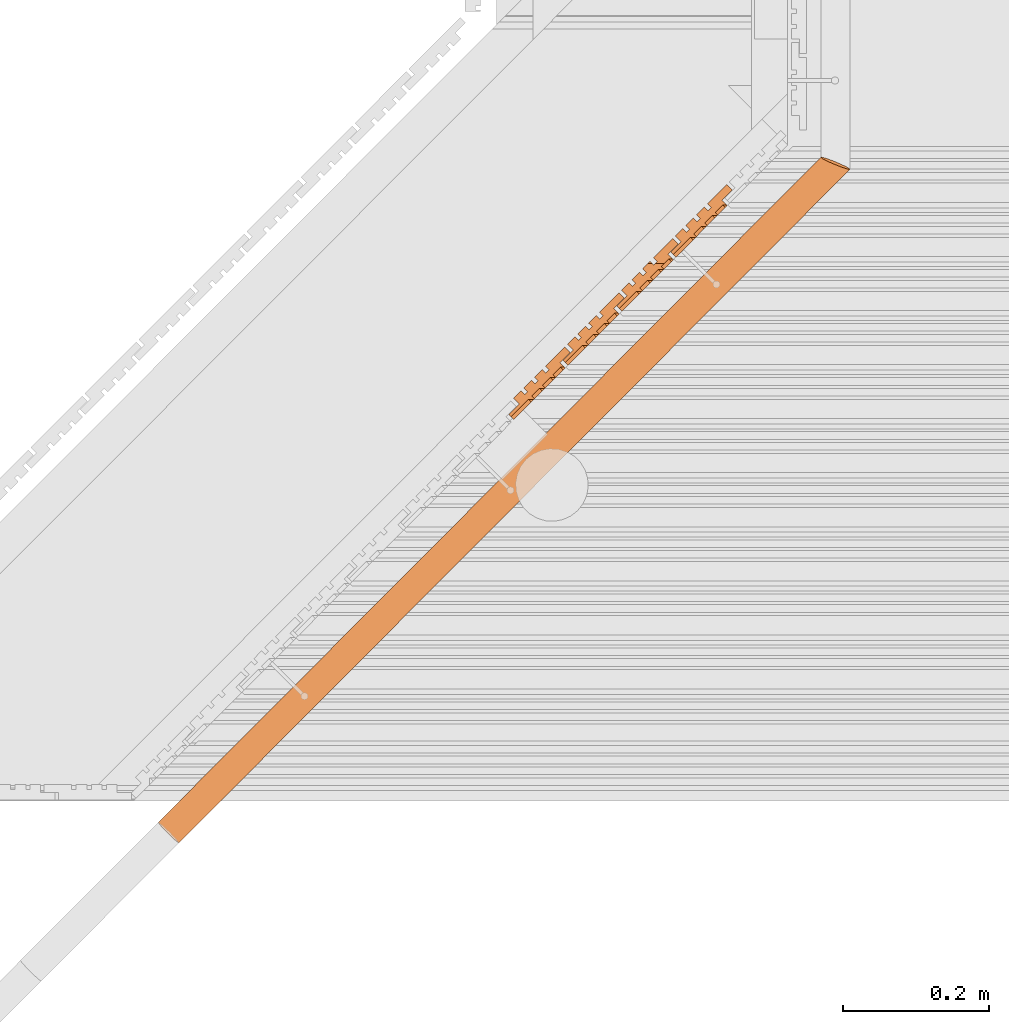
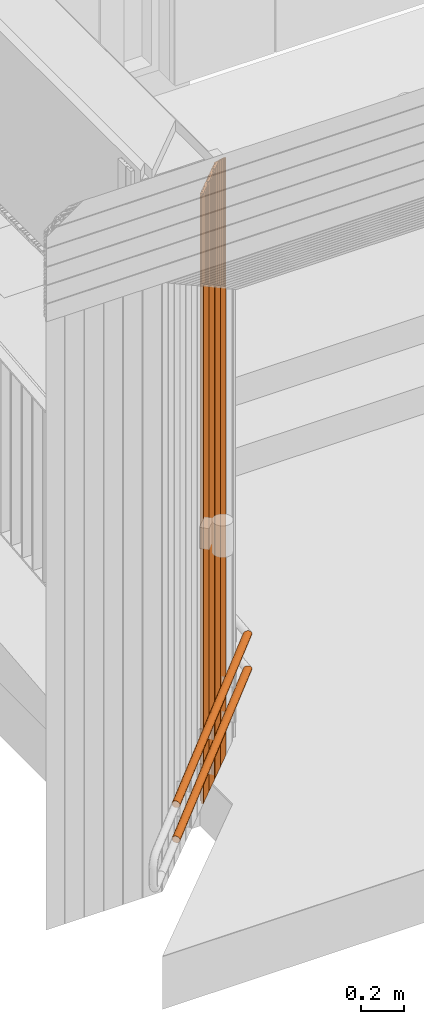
# One storey, part 384 of 418: 6 proxies, 1 element without a shape of its own.
"""IFC2X3 building model written with IfcOpenShell, lengths in millimetres."""

import ifcopenshell
import ifcopenshell.guid

model = None  # the IFC model being written
_history = None  # IfcOwnerHistory: only IFC2X3 demands one
_inside = {}  # id of a spatial element -> (the spatial element, [elements in it])
_under = {}  # id of a project, library or spatial element -> (it, [spatial elements below it])
_declared = {}  # id of a project -> (the project, [libraries it declares])
_typed = {}  # id of a type object -> (the type object, [elements of that type])
_made_of = {}  # id of a material, layer set ... -> (it, [elements and type objects made of it])


def new_model(schema):
    """Start an empty IFC model of exactly this schema.

    Asked for "IFC4X3", IfcOpenShell would pick the latest addendum, in which some entities
    have other attributes; the version numbers below select the first issue.
    IFC2X3 requires an IfcOwnerHistory on every rooted entity: one is made here for all.
    """
    global model, _history
    if schema == "IFC4X3":
        model = ifcopenshell.file(schema_version=(4, 3, 0, 0))
    else:
        model = ifcopenshell.file(schema=schema)
    _inside.clear()
    _under.clear()
    _declared.clear()
    _typed.clear()
    _made_of.clear()
    _history = None
    if model.schema == "IFC2X3":
        org = make("IfcOrganization", Name="unknown")
        user = make(
            "IfcPersonAndOrganization",
            ThePerson=make("IfcPerson", FamilyName="unknown"),
            TheOrganization=org,
        )
        app = make(
            "IfcApplication",
            ApplicationDeveloper=org,
            Version="unknown",
            ApplicationFullName="unknown",
            ApplicationIdentifier="unknown",
        )
        _history = make(
            "IfcOwnerHistory",
            OwningUser=user,
            OwningApplication=app,
            ChangeAction="ADDED",
            CreationDate=0,
        )
    return model


def make(cls, **values):
    """One entity of the class cls with the attributes given. An attribute that is None is left unset."""
    return model.create_entity(
        cls, **{name: value for name, value in values.items() if value is not None}
    )


def entity(cls, *values):
    """Any entity or typed value of the class cls, its attributes in the order of the schema. None: left unset."""
    e = model.create_entity(cls)
    for i, value in enumerate(values):
        if value is not None:
            e[i] = value
    return e


def rooted(cls, **values):
    """An entity with a GlobalId (a new one), such as an element, a storey or a relation."""
    return make(cls, GlobalId=ifcopenshell.guid.new(), OwnerHistory=_history, **values)


def si_unit(unit_type, name, prefix=None):
    """IfcSIUnit, for example si_unit("LENGTHUNIT", "METRE", prefix="MILLI")."""
    return make("IfcSIUnit", UnitType=unit_type, Prefix=prefix, Name=name)


def converted_unit(unit_type, name, factor, base, dimensions=None, offset=None):
    """IfcConversionBasedUnit, such as the inch: factor (a typed value) times the base unit."""
    return make(
        "IfcConversionBasedUnit"
        if offset is None
        else "IfcConversionBasedUnitWithOffset",
        ConversionOffset=offset,
        Dimensions=None
        if dimensions is None
        else entity("IfcDimensionalExponents", *dimensions),
        UnitType=unit_type,
        Name=name,
        ConversionFactor=make(
            "IfcMeasureWithUnit", ValueComponent=factor, UnitComponent=base
        ),
    )


def derived_unit(unit_type, elements):
    """IfcDerivedUnit: a product of units, each with its exponent."""
    return make(
        "IfcDerivedUnit",
        Elements=[
            make("IfcDerivedUnitElement", Unit=unit, Exponent=power)
            for unit, power in elements
        ],
        UnitType=unit_type,
    )


def money_unit(currency):
    """IfcMonetaryUnit."""
    return make("IfcMonetaryUnit", Currency=currency)


def assignment(units):
    """IfcUnitAssignment: the units of a project."""
    return None if units is None else make("IfcUnitAssignment", Units=units)


def point(xyz):
    """IfcCartesianPoint."""
    return None if xyz is None else make("IfcCartesianPoint", Coordinates=xyz)


def direction(xyz):
    """IfcDirection."""
    return None if xyz is None else make("IfcDirection", DirectionRatios=xyz)


def frame(location, z_axis=None, x_axis=None):
    """IfcAxis2Placement3D, a coordinate frame: its origin and axes. An axis left out is left unset."""
    return make(
        "IfcAxis2Placement3D",
        Location=point(location),
        Axis=direction(z_axis),
        RefDirection=direction(x_axis),
    )


def origin_with_axes():
    """The frame at (0, 0, 0) with the z axis (0, 0, 1) and the x axis (1, 0, 0) written out."""
    return frame((0.0, 0.0, 0.0), z_axis=(0.0, 0.0, 1.0), x_axis=(1.0, 0.0, 0.0))


def place(relative_to, where):
    """IfcLocalPlacement: puts the frame where relative to a parent placement (None: the world)."""
    return make(
        "IfcLocalPlacement", PlacementRelTo=relative_to, RelativePlacement=where
    )


def context(
    kind, dimensions, precision=None, world=None, true_north=None, identifier=None
):
    """IfcGeometricRepresentationContext, for example the 3D "Model" context."""
    return make(
        "IfcGeometricRepresentationContext",
        ContextIdentifier=identifier,
        ContextType=kind,
        CoordinateSpaceDimension=dimensions,
        Precision=precision,
        WorldCoordinateSystem=world,
        TrueNorth=true_north,
    )


def subcontext(parent, identifier, kind, view, scale=None):
    """IfcGeometricRepresentationSubContext, for example "Body" below "Model"."""
    return make(
        "IfcGeometricRepresentationSubContext",
        ContextIdentifier=identifier,
        ContextType=kind,
        ParentContext=parent,
        TargetScale=scale,
        TargetView=view,
    )


def project(units=None, contexts=None):
    """IfcProject with its units and contexts."""
    return rooted(
        "IfcProject",
        Name="project",
        RepresentationContexts=contexts,
        UnitsInContext=assignment(units),
    )


def spatial(cls, under=None, at=None, **own):
    """A site, building, storey or space (cls), placed at a placement, below another one or the project."""
    s = rooted(cls, ObjectPlacement=at, **own)
    if under is not None:
        _under.setdefault(under.id(), (under, []))[1].append(s)
    return s


def polyline(points):
    """IfcPolyline through the points."""
    return make("IfcPolyline", Points=[point(p) for p in points])


def outline(outer, holes=None, kind="AREA"):
    """IfcArbitraryClosedProfileDef: a profile drawn as a closed curve; with holes, ...WithVoids."""
    if holes is None:
        return make("IfcArbitraryClosedProfileDef", ProfileType=kind, OuterCurve=outer)
    return make(
        "IfcArbitraryProfileDefWithVoids",
        ProfileType=kind,
        OuterCurve=outer,
        InnerCurves=holes,
    )


def extrude(swept, where, along, depth):
    """IfcExtrudedAreaSolid: the profile swept, set in the frame where, extruded along a direction by depth."""
    return make(
        "IfcExtrudedAreaSolid",
        SweptArea=swept,
        Position=where,
        ExtrudedDirection=direction(along),
        Depth=depth,
    )


def boolean(op, a, b):
    """IfcBooleanResult of two solids."""
    return make("IfcBooleanResult", Operator=op, FirstOperand=a, SecondOperand=b)


def faces_of(points, faces, orient=None, outer=None):
    """IfcFace entities. A face is a list of loops; a loop is a list of indices into points, from 0.

    orient and outer hold one flag for each loop. By default every Orientation is true, the
    first loop of a face is its IfcFaceOuterBound and the others are IfcFaceBound.
    """
    made = []
    for i, loops in enumerate(faces):
        bounds = []
        for j, loop in enumerate(loops):
            is_outer = j == 0 if outer is None else outer[i][j]
            bounds.append(
                make(
                    "IfcFaceOuterBound" if is_outer else "IfcFaceBound",
                    Bound=make("IfcPolyLoop", Polygon=[points[k] for k in loop]),
                    Orientation=True if orient is None else orient[i][j],
                )
            )
        made.append(make("IfcFace", Bounds=bounds))
    return made


def faceted_brep(points, faces, orient=None, outer=None, voids=None):
    """IfcFacetedBrep: a solid bounded by flat faces; with voids (closed shells), ...WithVoids."""
    shared = [point(p) for p in points]
    hull = make("IfcClosedShell", CfsFaces=faces_of(shared, faces, orient, outer))
    if voids is None:
        return make("IfcFacetedBrep", Outer=hull)
    return make(
        "IfcFacetedBrepWithVoids",
        Outer=hull,
        Voids=[
            make(cls, CfsFaces=faces_of(shared, fs, o, b)) for cls, fs, o, b in voids
        ],
    )


def shape(context_of_items, identifier, shape_type, items):
    """IfcShapeRepresentation: the items that make up one representation, for example the "Body"."""
    return make(
        "IfcShapeRepresentation",
        ContextOfItems=context_of_items,
        RepresentationIdentifier=identifier,
        RepresentationType=shape_type,
        Items=items,
    )


def material(Name=None, Category=None):
    """IfcMaterial."""
    return make("IfcMaterial", Name=Name, Category=Category)


def made_of(thing, what):
    """Note that an element or type object is made of a material, layer set ...; save() writes the relation."""
    if what is not None:
        _made_of.setdefault(what.id(), (what, []))[1].append(thing)
    return thing


def type_object(cls, material=None, **own):
    """A type object (cls), such as IfcWallType, which elements share."""
    return made_of(rooted(cls, **own), material)


def element(
    cls,
    number,
    at=None,
    inside=None,
    cuts=None,
    type_object=None,
    material=None,
    context=None,
    identifier="Body",
    shape_type=None,
    held_by="IfcProductDefinitionShape",
    body=None,
    shapes=None,
    **own,
):
    """One element of the class cls, such as IfcWall. Its Tag is "e" and its number.

    at: its placement. inside: the storey or other place that contains it. cuts: it is an
    opening in that element (IfcRelVoidsElement). A single representation is given by context,
    identifier, shape_type and body (its items); several are given by shapes. held_by: the class
    of the entity that holds the representations. save() writes the other relations.
    """
    e = rooted(cls, Tag="e%d" % number, ObjectPlacement=at, **own)
    if body is not None:
        shapes = [shape(context, identifier, shape_type, body)]
    if shapes is not None:
        e.Representation = make(held_by, Representations=shapes)
    if inside is not None:
        _inside.setdefault(inside.id(), (inside, []))[1].append(e)
    if cuts is not None:
        rooted(
            "IfcRelVoidsElement", RelatingBuildingElement=cuts, RelatedOpeningElement=e
        )
    if type_object is not None:
        _typed.setdefault(type_object.id(), (type_object, []))[1].append(e)
    return made_of(e, material)


def aggregate(whole, parts):
    """IfcRelAggregates: a whole, such as a stair, and the parts it consists of."""
    return rooted("IfcRelAggregates", RelatingObject=whole, RelatedObjects=parts)


def save(model, path):
    """Write the relations noted so far, then the file.

    IfcRelAggregates (storeys below a building ...), IfcRelContainedInSpatialStructure (elements
    in a storey), IfcRelDefinesByType, IfcRelAssociatesMaterial and IfcRelDeclares: one each for
    every whole, place, type object, material and project.
    """
    for whole, parts in _under.values():
        aggregate(whole, parts)
    for where, things in _inside.values():
        rooted(
            "IfcRelContainedInSpatialStructure",
            RelatedElements=things,
            RelatingStructure=where,
        )
    for kind, things in _typed.values():
        rooted("IfcRelDefinesByType", RelatedObjects=things, RelatingType=kind)
    for what, things in _made_of.values():
        rooted("IfcRelAssociatesMaterial", RelatedObjects=things, RelatingMaterial=what)
    for by, libraries in _declared.values():
        rooted("IfcRelDeclares", RelatingContext=by, RelatedDefinitions=libraries)
    model.write(path)


model = new_model("IFC2X3")

# Units and contexts
model_context = context("Model", 3, precision=0.01, world=origin_with_axes(), true_north=direction((0.0, 1.0)))
body_context = subcontext(model_context, "Body", "Model", "MODEL_VIEW")
ifc_project = project(units=[si_unit("LENGTHUNIT", "METRE", prefix="MILLI"), si_unit("AREAUNIT", "SQUARE_METRE"), si_unit("VOLUMEUNIT", "CUBIC_METRE"), converted_unit("PLANEANGLEUNIT", "DEGREE", entity("IfcPlaneAngleMeasure", 0.0174532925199), si_unit("PLANEANGLEUNIT", "RADIAN"), dimensions=[0, 0, 0, 0, 0, 0, 0]), si_unit("SOLIDANGLEUNIT", "STERADIAN"), money_unit("EUR"), converted_unit("TIMEUNIT", "Year", entity("IfcTimeMeasure", 31556926.0), si_unit("TIMEUNIT", "SECOND"), dimensions=[0, 0, 1, 0, 0, 0, 0]), si_unit("MASSUNIT", "GRAM", prefix="KILO"), si_unit("THERMODYNAMICTEMPERATUREUNIT", "DEGREE_CELSIUS"), si_unit("LUMINOUSINTENSITYUNIT", "LUMEN"), si_unit("ENERGYUNIT", "JOULE", prefix="MEGA"), derived_unit("THERMALCONDUCTANCEUNIT", [(si_unit("POWERUNIT", "WATT"), 1), (si_unit("LENGTHUNIT", "METRE"), -1), (si_unit("THERMODYNAMICTEMPERATUREUNIT", "KELVIN"), -1)]), derived_unit("SPECIFICHEATCAPACITYUNIT", [(si_unit("ENERGYUNIT", "JOULE"), 1), (si_unit("MASSUNIT", "GRAM", prefix="KILO"), -1), (si_unit("THERMODYNAMICTEMPERATUREUNIT", "KELVIN"), -1)]), derived_unit("MASSDENSITYUNIT", [(si_unit("MASSUNIT", "GRAM", prefix="KILO"), 1), (si_unit("VOLUMEUNIT", "CUBIC_METRE"), -1)])], contexts=[model_context])

# Site, building, storey
site_placement = place(None, origin_with_axes())
site = spatial("IfcSite", under=ifc_project, at=site_placement, Name="Paldiski mnt 245/1, Tallinn, Harjumaa", CompositionType="COMPLEX")
building_placement = place(site_placement, origin_with_axes())
building = spatial("IfcBuilding", under=site, at=building_placement, Name="RKAS Hoone üldnimetus (kasutust iseloomustav) -> IFC Project Manager -> SOLIBRI", CompositionType="ELEMENT")
storey_placement = place(building_placement, origin_with_axes())
storey = spatial("IfcBuildingStorey", under=building, at=storey_placement, Name="Esimene korrus", CompositionType="ELEMENT", Elevation=0.0)

# Proxies
building_element_proxy_type_1 = type_object("IfcBuildingElementProxyType", Name="Railing Type", PredefinedType="NOTDEFINED")
proxy_1_placement = place(storey_placement, frame((-44169.0000164, -15302.0843015, -364.012029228), z_axis=(0.0, 0.0, 1.0), x_axis=(-0.773149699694, -0.634223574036, 0.0)))
proxy_1 = element("IfcBuildingElementProxy", 1, at=proxy_1_placement, inside=storey, type_object=building_element_proxy_type_1, Name="Trepipiire")
ifc_material_1 = material(Name="Teras - Konstruktsioon")
building_element_proxy_type_2 = type_object("IfcBuildingElementProxyType", Name="IfcBuildingElementProxy", PredefinedType="NOTDEFINED")
proxy_2_placement = place(proxy_1_placement, frame((2161.64361304, 2093.96107504, 647.161502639), z_axis=(0.0, 0.0, 1.0), x_axis=(-0.773149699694, 0.634223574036, 0.0)))
proxy_2 = element("IfcBuildingElementProxy", 2, at=proxy_2_placement, type_object=building_element_proxy_type_2, material=ifc_material_1, Name="KÄSIPUU - 001", context=body_context, shape_type="Brep", body=[
    faceted_brep([(478.921348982, 452.84694458, 116.688337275), (478.495575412, 452.677549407, 120.146947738), (-443.465059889, -472.504445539, 28.2355924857), (478.739946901, 453.267742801, 113.229726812), (477.956880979, 453.927158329, 109.876204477), (476.595944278, 454.805155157, 106.729665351), (474.698488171, 455.875055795, 103.885715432), (472.322165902, 457.104351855, 101.430766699), (469.53918082, 458.455691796, 99.4394115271), (466.434092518, 459.88801584, 97.9721562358), (463.101247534, 461.357803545, 97.0735826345), (459.641912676, 462.820396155, 96.7709934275), (456.161198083, 464.231353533, 97.0735826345), (452.764863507, 465.547804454, 97.9721562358), (449.556104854, 466.729749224, 99.4394115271), (446.632418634, 467.741275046, 101.430766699), (444.082639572, 468.551647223, 103.885715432), (441.984241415, 469.136243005, 106.729665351), (440.400982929, 469.477299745, 109.876204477), (439.380970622, 469.564454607, 113.229726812), (438.955197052, 469.395059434, 116.688337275), (439.136599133, 468.974261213, 120.146947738), (439.919665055, 468.314845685, 123.500470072), (441.280601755, 467.436848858, 126.647009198), (443.178057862, 466.366948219, 129.490959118), (445.554380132, 465.13765216, 131.945907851), (448.337365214, 463.786312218, 133.937263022), (451.442453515, 462.353988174, 135.404518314), (454.775298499, 460.884200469, 136.303091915), (458.234633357, 459.42160786, 136.605681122), (461.71534795, 458.010650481, 136.303091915), (465.111682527, 456.69419956, 135.404518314), (468.320441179, 455.512254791, 133.937263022), (471.2441274, 454.500728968, 131.945907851), (473.793906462, 453.690356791, 129.490959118), (475.892304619, 453.105761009, 126.647009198), (477.475563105, 452.764704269, 123.500470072), (-444.271859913, -472.03563304, 31.5946230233), (-443.076717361, -472.545355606, 24.7713012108), (-443.118631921, -472.157120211, 21.3070099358), (-443.589530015, -471.351535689, 17.9479793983), (-444.475103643, -470.153079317, 14.7962720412), (-445.7484451, -468.598165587, 11.9476508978), (-447.370864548, -466.734039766, 9.48866988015), (-449.293065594, -464.617342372, 7.49404388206), (-451.456643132, -462.312388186, 6.0243786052), (-453.795857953, -459.889212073, 5.1243290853), (-456.239634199, -457.421441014, 4.82124287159), (-458.713718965, -454.984056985, 5.1243290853), (-461.142938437, -452.651118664, 6.0243786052), (-463.453482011, -450.493511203, 7.49404388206), (-465.575144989, -448.576792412, 9.48866988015), (-467.443461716, -446.959200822, 11.9476508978), (-469.001664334, -445.689886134, 14.7962720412), (-470.202407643, -444.807415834, 17.9479793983), (-471.009207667, -444.338603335, 21.3070099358), (-471.397550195, -444.297693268, 24.7713012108), (-471.355635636, -444.685928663, 28.2355924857), (-470.884737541, -445.491513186, 31.5946230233), (-469.999163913, -446.689969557, 34.7463303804), (-468.725822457, -448.244883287, 37.5949515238), (-467.103403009, -450.109009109, 40.0539325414), (-465.181201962, -452.225706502, 42.0485585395), (-463.017624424, -454.530660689, 43.5182238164), (-460.678409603, -456.953836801, 44.4182733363), (-458.234633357, -459.42160786, 44.72135955), (-455.760548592, -461.85899189, 44.4182733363), (-453.33132912, -464.19193021, 43.5182238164), (-451.020785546, -466.349537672, 42.0485585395), (-448.899122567, -468.266256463, 40.0539325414), (-447.03080584, -469.883848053, 37.5949515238), (-445.472603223, -471.15316274, 34.7463303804)], [[[0, 1, 2]], [[0, 3, 4, 5, 6, 7, 8, 9, 10, 11, 12, 13, 14, 15, 16, 17, 18, 19, 20, 21, 22, 23, 24, 25, 26, 27, 28, 29, 30, 31, 32, 33, 34, 35, 36, 1]], [[1, 37, 2]], [[0, 2, 38]], [[3, 0, 38]], [[4, 3, 39]], [[5, 4, 40]], [[6, 5, 41]], [[7, 6, 42]], [[8, 7, 43]], [[9, 8, 44]], [[10, 9, 45]], [[11, 10, 46]], [[12, 11, 47]], [[13, 12, 48]], [[14, 13, 49]], [[15, 14, 50]], [[16, 15, 51]], [[17, 16, 52]], [[18, 17, 53]], [[19, 18, 54]], [[20, 19, 55]], [[21, 20, 56]], [[22, 21, 57]], [[23, 22, 58]], [[24, 23, 59]], [[25, 24, 60]], [[26, 25, 61]], [[27, 26, 62]], [[28, 27, 63]], [[29, 28, 64]], [[30, 29, 65]], [[31, 30, 66]], [[32, 31, 67]], [[33, 32, 68]], [[34, 33, 69]], [[35, 34, 70]], [[36, 35, 71]], [[1, 36, 37]], [[38, 2, 37, 71, 70, 69, 68, 67, 66, 65, 64, 63, 62, 61, 60, 59, 58, 57, 56, 55, 54, 53, 52, 51, 50, 49, 48, 47, 46, 45, 44, 43, 42, 41, 40, 39]], [[3, 38, 39]], [[4, 39, 40]], [[5, 40, 41]], [[6, 41, 42]], [[7, 42, 43]], [[8, 43, 44]], [[9, 44, 45]], [[10, 45, 46]], [[11, 46, 47]], [[12, 47, 48]], [[13, 48, 49]], [[14, 49, 50]], [[15, 50, 51]], [[16, 51, 52]], [[17, 52, 53]], [[18, 53, 54]], [[19, 54, 55]], [[20, 55, 56]], [[21, 56, 57]], [[22, 57, 58]], [[23, 58, 59]], [[24, 59, 60]], [[25, 60, 61]], [[26, 61, 62]], [[27, 62, 63]], [[28, 63, 64]], [[29, 64, 65]], [[30, 65, 66]], [[31, 66, 67]], [[32, 67, 68]], [[33, 68, 69]], [[34, 69, 70]], [[35, 70, 71]], [[36, 71, 37]]]),
])
proxy_3_placement = place(proxy_1_placement, frame((2161.64361304, 2093.96107504, 847.161502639), z_axis=(0.0, 0.0, 1.0), x_axis=(-0.773149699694, 0.634223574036, 0.0)))
proxy_3 = element("IfcBuildingElementProxy", 3, at=proxy_3_placement, type_object=building_element_proxy_type_2, material=ifc_material_1, Name="KÄSIPUU - 001", context=body_context, shape_type="Brep", body=[
    faceted_brep([(478.921348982, 452.84694458, 116.688337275), (478.495575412, 452.677549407, 120.146947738), (-443.465059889, -472.504445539, 28.2355924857), (478.739946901, 453.267742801, 113.229726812), (477.956880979, 453.927158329, 109.876204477), (476.595944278, 454.805155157, 106.729665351), (474.698488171, 455.875055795, 103.885715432), (472.322165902, 457.104351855, 101.430766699), (469.53918082, 458.455691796, 99.4394115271), (466.434092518, 459.88801584, 97.9721562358), (463.101247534, 461.357803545, 97.0735826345), (459.641912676, 462.820396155, 96.7709934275), (456.161198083, 464.231353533, 97.0735826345), (452.764863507, 465.547804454, 97.9721562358), (449.556104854, 466.729749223, 99.4394115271), (446.632418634, 467.741275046, 101.430766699), (444.082639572, 468.551647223, 103.885715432), (441.984241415, 469.136243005, 106.729665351), (440.400982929, 469.477299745, 109.876204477), (439.380970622, 469.564454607, 113.229726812), (438.955197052, 469.395059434, 116.688337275), (439.136599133, 468.974261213, 120.146947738), (439.919665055, 468.314845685, 123.500470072), (441.280601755, 467.436848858, 126.647009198), (443.178057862, 466.366948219, 129.490959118), (445.554380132, 465.13765216, 131.945907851), (448.337365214, 463.786312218, 133.937263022), (451.442453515, 462.353988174, 135.404518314), (454.775298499, 460.884200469, 136.303091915), (458.234633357, 459.42160786, 136.605681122), (461.71534795, 458.010650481, 136.303091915), (465.111682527, 456.69419956, 135.404518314), (468.320441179, 455.512254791, 133.937263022), (471.2441274, 454.500728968, 131.945907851), (473.793906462, 453.690356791, 129.490959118), (475.892304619, 453.105761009, 126.647009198), (477.475563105, 452.764704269, 123.500470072), (-444.271859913, -472.03563304, 31.5946230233), (-443.076717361, -472.545355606, 24.7713012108), (-443.118631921, -472.157120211, 21.3070099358), (-443.589530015, -471.351535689, 17.9479793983), (-444.475103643, -470.153079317, 14.7962720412), (-445.7484451, -468.598165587, 11.9476508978), (-447.370864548, -466.734039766, 9.48866988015), (-449.293065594, -464.617342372, 7.49404388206), (-451.456643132, -462.312388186, 6.0243786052), (-453.795857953, -459.889212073, 5.1243290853), (-456.239634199, -457.421441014, 4.82124287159), (-458.713718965, -454.984056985, 5.1243290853), (-461.142938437, -452.651118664, 6.0243786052), (-463.453482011, -450.493511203, 7.49404388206), (-465.575144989, -448.576792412, 9.48866988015), (-467.443461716, -446.959200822, 11.9476508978), (-469.001664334, -445.689886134, 14.7962720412), (-470.202407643, -444.807415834, 17.9479793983), (-471.009207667, -444.338603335, 21.3070099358), (-471.397550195, -444.297693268, 24.7713012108), (-471.355635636, -444.685928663, 28.2355924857), (-470.884737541, -445.491513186, 31.5946230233), (-469.999163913, -446.689969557, 34.7463303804), (-468.725822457, -448.244883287, 37.5949515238), (-467.103403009, -450.109009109, 40.0539325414), (-465.181201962, -452.225706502, 42.0485585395), (-463.017624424, -454.530660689, 43.5182238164), (-460.678409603, -456.953836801, 44.4182733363), (-458.234633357, -459.42160786, 44.72135955), (-455.760548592, -461.85899189, 44.4182733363), (-453.33132912, -464.19193021, 43.5182238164), (-451.020785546, -466.349537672, 42.0485585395), (-448.899122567, -468.266256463, 40.0539325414), (-447.03080584, -469.883848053, 37.5949515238), (-445.472603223, -471.15316274, 34.7463303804)], [[[0, 1, 2]], [[0, 3, 4, 5, 6, 7, 8, 9, 10, 11, 12, 13, 14, 15, 16, 17, 18, 19, 20, 21, 22, 23, 24, 25, 26, 27, 28, 29, 30, 31, 32, 33, 34, 35, 36, 1]], [[1, 37, 2]], [[0, 2, 38]], [[3, 0, 38]], [[4, 3, 39]], [[5, 4, 40]], [[6, 5, 41]], [[7, 6, 42]], [[8, 7, 43]], [[9, 8, 44]], [[10, 9, 45]], [[11, 10, 46]], [[12, 11, 47]], [[13, 12, 48]], [[14, 13, 49]], [[15, 14, 50]], [[16, 15, 51]], [[17, 16, 52]], [[18, 17, 53]], [[19, 18, 54]], [[20, 19, 55]], [[21, 20, 56]], [[22, 21, 57]], [[23, 22, 58]], [[24, 23, 59]], [[25, 24, 60]], [[26, 25, 61]], [[27, 26, 62]], [[28, 27, 63]], [[29, 28, 64]], [[30, 29, 65]], [[31, 30, 66]], [[32, 31, 67]], [[33, 32, 68]], [[34, 33, 69]], [[35, 34, 70]], [[36, 35, 71]], [[1, 36, 37]], [[38, 2, 37, 71, 70, 69, 68, 67, 66, 65, 64, 63, 62, 61, 60, 59, 58, 57, 56, 55, 54, 53, 52, 51, 50, 49, 48, 47, 46, 45, 44, 43, 42, 41, 40, 39]], [[3, 38, 39]], [[4, 39, 40]], [[5, 40, 41]], [[6, 41, 42]], [[7, 42, 43]], [[8, 43, 44]], [[9, 44, 45]], [[10, 45, 46]], [[11, 46, 47]], [[12, 47, 48]], [[13, 48, 49]], [[14, 49, 50]], [[15, 50, 51]], [[16, 51, 52]], [[17, 52, 53]], [[18, 53, 54]], [[19, 54, 55]], [[20, 55, 56]], [[21, 56, 57]], [[22, 57, 58]], [[23, 58, 59]], [[24, 59, 60]], [[25, 60, 61]], [[26, 61, 62]], [[27, 62, 63]], [[28, 63, 64]], [[29, 64, 65]], [[30, 65, 66]], [[31, 66, 67]], [[32, 67, 68]], [[33, 68, 69]], [[34, 69, 70]], [[35, 70, 71]], [[36, 71, 37]]]),
])
aggregate(proxy_1, [proxy_2, proxy_3])

ifc_material_2 = material(Name="ET-01_Puit - Konstruktsioon")
building_element_proxy_type_3 = type_object("IfcBuildingElementProxyType", Name="ET-01_Puit - Konstruktsioon 3460", PredefinedType="NOTDEFINED")
proxy_4_placement = place(storey_placement, frame((-44417.7054195, -18090.5078004, 3459.91760543), z_axis=(0.0, 0.0, 1.0), x_axis=(1.0, 0.0, 0.0)))
element("IfcBuildingElementProxy", 4, at=proxy_4_placement, inside=storey, type_object=building_element_proxy_type_3, material=ifc_material_2, Name="Varikatus", context=body_context, shape_type="CSG", body=[
    boolean("DIFFERENCE", boolean("DIFFERENCE", boolean("DIFFERENCE", boolean("DIFFERENCE", extrude(outline(polyline([(0.0, 0.0), (-7.43421773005, 7.41501121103), (-33.9348317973, -19.1542421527), (-28.9786867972, -24.0975845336), (-33.4718286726, -28.6023647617), (-38.427973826, -23.6590239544), (-48.977853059, -34.2362291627), (-44.0217079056, -39.17956997), (-48.3485023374, -43.5175708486), (-53.3046474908, -38.5742300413), (-63.7764051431, -49.0731098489), (-58.8202601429, -54.0164522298), (-62.8036533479, -58.0101621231), (-67.7597985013, -53.0668213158), (-78.0533793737, -63.3870646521), (-70.2651518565, -71.15517294), (-84.3889832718, -85.3155885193), (-77.3087754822, -92.3775042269), (-6.68961383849, -21.5754283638), (-14.1238329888, -14.160415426), (0.0, 0.0)])), frame((0.0, 0.0, -3459.91760543), z_axis=(0.0, 0.0, 1.0), x_axis=(1.0, 0.0, 0.0)), (0.0, 0.0, 1.0), 3459.91760543), faceted_brep([(-53.5549072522, -68.5621110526, -524.288040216), (-49.7587927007, -64.7561641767, -520.482092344), (-49.7587940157, -64.7561641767, 0.0), (-77.3087754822, -92.3775042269, 0.0), (-77.3087754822, -92.3775042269, -500.534171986), (-57.3608558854, -64.7561641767, -520.482092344), (-57.3608558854, -64.7561641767, 0.0), (-81.1504455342, -88.5457593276, 0.0), (-81.1504455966, -88.5457593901, -496.69250195)], [[[0, 1, 2, 3, 4]], [[1, 0, 5]], [[6, 2, 1, 5]], [[6, 7, 3, 2]], [[8, 4, 3, 7]], [[0, 4, 8, 5]], [[7, 6, 5, 8]]])), faceted_brep([(-38.5118726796, -53.4801134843, -539.331074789), (-34.7351882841, -49.6936470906, -535.544607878), (-34.7351903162, -49.6936470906, 0.0), (-49.0617617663, -64.0573265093, 0.0), (-49.0617610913, -64.0573271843, -528.781186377), (-42.2983394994, -49.6936470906, -535.544607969), (-42.2983394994, -49.6936470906, 0.0), (-52.8618896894, -60.2571990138, 0.0), (-52.8618896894, -60.2571990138, -524.981057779)], [[[0, 1, 2, 3, 4]], [[1, 0, 5]], [[6, 2, 1, 5]], [[7, 3, 2, 6]], [[4, 3, 7, 8]], [[0, 4, 8, 5]], [[7, 6, 5, 8]]])), faceted_brep([(-23.7133081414, -38.6432191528, -554.129639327), (-19.9557375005, -34.8759160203, -550.362335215), (-19.9557402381, -34.8759160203, 0.0), (-34.185075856, -49.1421077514, 0.0), (-34.1850748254, -49.1421087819, -543.657872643), (-27.4806130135, -34.8759160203, -550.362335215), (-27.4806130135, -34.8759160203, 0.0), (-37.9659389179, -45.3612451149, 0.0), (-37.9659389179, -45.3612451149, -539.87700855)], [[[0, 1, 2, 3, 4]], [[1, 0, 5]], [[6, 2, 1, 5]], [[7, 3, 2, 6]], [[4, 3, 7, 8]], [[0, 4, 8, 5]], [[7, 6, 5, 8]]])), faceted_brep([(-19.7299117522, -34.6495053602, -558.113035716), (-9.43632129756, -24.3292534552, -568.406626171), (-6.68961383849, -21.5754283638, -565.652799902), (-6.68961383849, -21.5754283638, 0.0), (-19.7299131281, -34.6495039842, 0.0), (-23.4920573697, -30.887360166, -554.350890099), (-13.1851373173, -20.5804387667, -564.657810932), (-7.68718067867, -20.5804387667, -564.657810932), (-7.68718063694, -20.5804387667, 0.0), (-23.4920573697, -30.887360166, 0.0), (-13.1851373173, -20.5804387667, 0.0)], [[[0, 1, 2, 3, 4]], [[1, 0, 5, 6]], [[7, 2, 1, 6]], [[7, 8, 3, 2]], [[9, 4, 3, 8, 10]], [[0, 4, 9, 5]], [[9, 10, 6, 5]], [[10, 8, 7, 6]]])),
])
proxy_5_placement = place(storey_placement, frame((-44343.5553002, -18016.1656199, 3459.91760543), z_axis=(0.0, 0.0, 1.0), x_axis=(1.0, 0.0, 0.0)))
element("IfcBuildingElementProxy", 5, at=proxy_5_placement, inside=storey, type_object=building_element_proxy_type_3, material=ifc_material_2, Name="Varikatus", context=body_context, shape_type="CSG", body=[
    boolean("DIFFERENCE", boolean("DIFFERENCE", boolean("DIFFERENCE", boolean("DIFFERENCE", extrude(outline(polyline([(0.0, 0.0), (-7.43421773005, 7.41501121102), (-33.9348317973, -19.1542421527), (-28.9786867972, -24.0975845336), (-33.4718286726, -28.6023647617), (-38.427973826, -23.6590239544), (-48.977853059, -34.2362291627), (-44.0217079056, -39.1795699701), (-48.3485023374, -43.5175708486), (-53.3046474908, -38.5742300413), (-63.7764051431, -49.0731098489), (-58.820260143, -54.0164522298), (-62.8036533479, -58.0101621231), (-67.7597985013, -53.0668213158), (-78.0533793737, -63.3870646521), (-70.2651518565, -71.15517294), (-84.3889832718, -85.3155885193), (-77.3087754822, -92.3775042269), (-6.68961383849, -21.5754283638), (-14.1238329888, -14.160415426), (0.0, 0.0)])), frame((0.0, 0.0, -3459.91760543), z_axis=(0.0, 0.0, 1.0), x_axis=(1.0, 0.0, 0.0)), (0.0, 0.0, 1.0), 3459.91760543), faceted_brep([(-53.5548452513, -68.5620488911, -598.438221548), (-49.8545065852, -64.85212597, -594.728297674), (-49.8545078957, -64.85212597, 0.0), (-77.3087754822, -92.3775042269, 0.0), (-77.3087754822, -92.3775042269, -574.684291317), (-57.2647698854, -64.85212597, -594.728297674), (-57.2647698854, -64.85212597, 0.0), (-81.0542974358, -88.6416590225, 0.0), (-81.0542974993, -88.641659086, -570.938769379)], [[[0, 1, 2, 3, 4]], [[1, 0, 5]], [[6, 2, 1, 5]], [[6, 7, 3, 2]], [[8, 4, 3, 7]], [[0, 4, 8, 5]], [[7, 6, 5, 8]]])), faceted_brep([(-38.5118106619, -53.4800513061, -613.481256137), (-34.8309021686, -49.7896088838, -609.790813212), (-34.8309041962, -49.7896088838, 0.0), (-49.0616997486, -64.057264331, 0.0), (-49.0616990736, -64.057265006, -602.931367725), (-42.2022534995, -49.7896088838, -609.7908133), (-42.2022534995, -49.7896088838, 0.0), (-52.7658036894, -60.3531608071, 0.0), (-52.7658036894, -60.3531608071, -599.22726311)], [[[0, 1, 2, 3, 4]], [[1, 0, 5]], [[6, 2, 1, 5]], [[7, 3, 2, 6]], [[4, 3, 7, 8]], [[0, 4, 8, 5]], [[7, 6, 5, 8]]])), faceted_brep([(-23.7132461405, -38.6431569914, -628.279820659), (-20.051451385, -34.9718778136, -624.608540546), (-20.051454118, -34.9718778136, 0.0), (-34.1850138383, -49.1420455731, 0.0), (-34.1850128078, -49.1420466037, -617.808053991), (-27.3845270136, -34.9718778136, -624.608540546), (-27.3845270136, -34.9718778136, 0.0), (-37.8698529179, -45.4572069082, 0.0), (-37.8698529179, -45.4572069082, -614.123213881)], [[[0, 1, 2, 3, 4]], [[1, 0, 5]], [[6, 2, 1, 5]], [[7, 3, 2, 6]], [[4, 3, 7, 8]], [[0, 4, 8, 5]], [[7, 6, 5, 8]]])), faceted_brep([(-19.7298497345, -34.649443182, -632.263217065), (-9.43625929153, -24.3291912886, -642.556807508), (-6.68961383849, -21.5754283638, -639.803043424), (-6.68961383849, -21.5754283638, 0.0), (-19.7298511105, -34.649441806, 0.0), (-23.3959713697, -30.9833219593, -628.597095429), (-13.0890513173, -20.67640056, -638.904016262), (-7.59097032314, -20.67640056, -638.904016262), (-7.59097028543, -20.67640056, 0.0), (-23.3959713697, -30.9833219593, 0.0), (-13.0890513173, -20.67640056, 0.0)], [[[0, 1, 2, 3, 4]], [[1, 0, 5, 6]], [[7, 2, 1, 6]], [[7, 8, 3, 2]], [[9, 4, 3, 8, 10]], [[0, 4, 9, 5]], [[9, 10, 6, 5]], [[10, 8, 7, 6]]])),
])
proxy_6_placement = place(storey_placement, frame((-44269.4051808, -17941.8234394, 3459.91760543), z_axis=(0.0, 0.0, 1.0), x_axis=(1.0, 0.0, 0.0)))
element("IfcBuildingElementProxy", 6, at=proxy_6_placement, inside=storey, type_object=building_element_proxy_type_3, material=ifc_material_2, Name="Varikatus", context=body_context, shape_type="CSG", body=[
    boolean("DIFFERENCE", boolean("DIFFERENCE", boolean("DIFFERENCE", boolean("DIFFERENCE", boolean("DIFFERENCE", extrude(outline(polyline([(0.0, 0.0), (-7.43421773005, 7.41501121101), (-33.9348317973, -19.1542421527), (-28.9786867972, -24.0975845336), (-33.4718286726, -28.6023647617), (-38.427973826, -23.6590239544), (-48.977853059, -34.2362291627), (-44.0217079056, -39.1795699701), (-48.3485023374, -43.5175708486), (-53.3046474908, -38.5742300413), (-63.7764051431, -49.0731098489), (-58.820260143, -54.0164522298), (-62.8036533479, -58.0101621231), (-67.7597985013, -53.0668213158), (-78.0533793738, -63.3870646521), (-70.2651518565, -71.15517294), (-84.3889832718, -85.3155885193), (-77.3087754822, -92.3775042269), (-6.68961383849, -21.5754283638), (-14.1238329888, -14.160415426), (0.0, 0.0)])), frame((0.0, 0.0, -3459.91760543), z_axis=(0.0, 0.0, 1.0), x_axis=(1.0, 0.0, 0.0)), (0.0, 0.0, 1.0), 3459.91760543), faceted_brep([(-53.5547832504, -68.5619867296, -672.58840288), (-49.9502204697, -64.9480877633, -668.974503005), (-49.9502217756, -64.9480877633, 0.0), (-77.3087754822, -92.3775042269, 0.0), (-77.3087754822, -92.3775042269, -648.834410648), (-57.1686838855, -64.9480877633, -668.974503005), (-57.1686838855, -64.9480877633, 0.0), (-80.9581493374, -88.7375587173, 0.0), (-80.9581494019, -88.7375587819, -645.185036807)], [[[0, 1, 2, 3, 4]], [[1, 0, 5]], [[6, 2, 1, 5]], [[6, 7, 3, 2]], [[8, 4, 3, 7]], [[0, 4, 8, 5]], [[7, 6, 5, 8]]])), faceted_brep([(-41.3765447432, -26.61523217, 0.0), (-35.4641083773, -26.61523217, 0.0), (-38.427973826, -23.6590239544, 0.0), (-38.427973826, -23.6590239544, -2.12486913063)], [[[0, 1, 2]], [[3, 1, 0]], [[1, 3, 2]], [[3, 0, 2]]])), faceted_brep([(-38.5117486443, -53.4799891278, -687.631437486), (-34.9266160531, -49.8855706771, -684.037018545), (-34.9266180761, -49.8855706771, 0.0), (-49.061637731, -64.0572021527, 0.0), (-49.061637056, -64.0572028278, -677.081549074), (-42.1061674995, -49.8855706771, -684.03701863), (-42.1061674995, -49.8855706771, 0.0), (-52.6697176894, -60.4491226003, 0.0), (-52.6697176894, -60.4491226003, -673.47346844)], [[[0, 1, 2, 3, 4]], [[1, 0, 5]], [[6, 2, 1, 5]], [[7, 3, 2, 6]], [[4, 3, 7, 8]], [[0, 4, 8, 5]], [[7, 6, 5, 8]]])), faceted_brep([(-23.7131841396, -38.6430948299, -702.43000199), (-20.1471652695, -35.0678396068, -698.854745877), (-20.147167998, -35.0678396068, 0.0), (-34.1849518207, -49.1419833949, 0.0), (-34.1849507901, -49.1419844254, -691.95823534), (-27.2884410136, -35.0678396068, -698.854745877), (-27.2884410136, -35.0678396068, 0.0), (-37.7737669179, -45.5531687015, 0.0), (-37.7737669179, -45.5531687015, -688.369419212)], [[[0, 1, 2, 3, 4]], [[1, 0, 5]], [[6, 2, 1, 5]], [[7, 3, 2, 6]], [[4, 3, 7, 8]], [[0, 4, 8, 5]], [[7, 6, 5, 8]]])), faceted_brep([(-14.1238329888, -14.160415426, -8.95229757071), (0.0, 0.0, -19.1305487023), (0.0, 0.0, 0.0), (-14.1238329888, -14.160415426, 0.0), (-7.43421773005, 7.41501121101, -24.4603249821), (-7.49475993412, -20.7723623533, -4.19974940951), (-12.9929653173, -20.7723623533, -4.19974940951), (-18.8358343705, -26.61523217, 0.0), (-31.4898299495, -26.61523217, 0.0), (-28.9786867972, -24.0975845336, -1.80963969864), (-33.9348317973, -19.1542421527, -5.36282501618), (-7.43421773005, 7.41501121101, 0.0), (-23.2998853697, -31.0792837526, 0.0), (-19.7297890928, -34.6493796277, 0.0), (-6.68961383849, -21.5754283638, 0.0), (-33.9348317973, -19.1542421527, 0.0), (-28.9786867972, -24.0975845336, 0.0), (-6.68961383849, -21.5754283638, -713.953286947), (-7.49475996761, -20.7723623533, -713.150221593), (-12.9929653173, -20.7723623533, -713.150221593), (-23.2998853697, -31.0792837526, -702.84330076), (-19.7297877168, -34.6493810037, -706.413398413), (-9.4361972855, -24.329129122, -716.706988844)], [[[0, 1, 2, 3]], [[4, 1, 0, 5, 6, 7, 8, 9, 10]], [[1, 4, 11, 2]], [[12, 13, 14, 3, 2, 11, 15, 16, 8, 7]], [[5, 0, 3, 14, 17, 18]], [[5, 18, 19, 6]], [[12, 7, 6, 19, 20]], [[9, 8, 16]], [[10, 9, 16, 15]], [[4, 10, 15, 11]], [[21, 13, 12, 20]], [[22, 17, 14, 13, 21]], [[18, 17, 22, 19]], [[22, 21, 20, 19]]])),
])
proxy_7_placement = place(storey_placement, frame((-44195.2550615, -17867.4812589, 3459.91760543), z_axis=(0.0, 0.0, 1.0), x_axis=(1.0, 0.0, 0.0)))
element("IfcBuildingElementProxy", 7, at=proxy_7_placement, inside=storey, type_object=building_element_proxy_type_3, material=ifc_material_2, Name="Varikatus", context=body_context, shape_type="CSG", body=[
    boolean("DIFFERENCE", extrude(outline(polyline([(0.0, 0.0), (-7.43421773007, 7.41501121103), (-33.9348317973, -19.1542421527), (-28.9786867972, -24.0975845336), (-33.4718286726, -28.6023647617), (-38.427973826, -23.6590239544), (-48.977853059, -34.2362291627), (-44.0217079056, -39.17956997), (-48.3485023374, -43.5175708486), (-53.3046474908, -38.5742300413), (-63.7764051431, -49.0731098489), (-58.820260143, -54.0164522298), (-62.8036533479, -58.0101621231), (-67.7597985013, -53.0668213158), (-78.0533793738, -63.3870646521), (-70.2651518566, -71.15517294), (-84.3889832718, -85.3155885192), (-77.3087754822, -92.3775042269), (-6.6896138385, -21.5754283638), (-14.1238329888, -14.160415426), (0.0, 0.0)])), frame((0.0, 0.0, -3459.91760543), z_axis=(0.0, 0.0, 1.0), x_axis=(1.0, 0.0, 0.0)), (0.0, 0.0, 1.0), 3459.91760543), faceted_brep([(-14.1238329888, -14.160415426, -62.3881156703), (0.0, 0.0, -72.5663668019), (0.0, 0.0, 0.0), (-14.1238329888, -14.160415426, 0.0), (-7.43421773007, 7.41501121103, -77.8961430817), (-7.39854958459, -20.8683241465, -57.5665919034), (-12.8968793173, -20.8683241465, -57.5665919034), (-23.2037993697, -31.1752455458, -50.158162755), (-19.7297269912, -34.6493175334, -47.6610624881), (-20.2428817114, -35.1638014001, -47.2912607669), (-27.1923550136, -35.1638014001, -47.2912607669), (-37.677680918, -45.6491304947, -39.7545953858), (-34.184889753, -49.1419212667, -37.2440403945), (-35.0223318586, -49.9815324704, -36.6405430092), (-42.0100814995, -49.9815324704, -36.6405430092), (-52.5736316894, -60.5450843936, -29.0476524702), (-49.0615756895, -64.0571399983, -26.5232502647), (-50.0459356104, -65.0440495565, -25.8138774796), (-57.0725978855, -65.0440495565, -25.8138774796), (-80.8620012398, -88.8334584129, -8.71447959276), (-84.3889832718, -85.3155885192, -11.2430610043), (-70.2651518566, -71.15517294, -21.4213122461), (-78.0533793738, -63.3870646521, -27.0048883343), (-67.7597985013, -53.0668213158, -34.4228930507), (-62.8036533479, -58.0101621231, -30.8697088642), (-58.820260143, -54.0164522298, -33.7403154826), (-63.7764051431, -49.0731098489, -37.2935008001), (-53.3046474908, -38.5742300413, -44.8399061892), (-48.3485023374, -43.5175708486, -41.2867220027), (-44.0217079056, -39.17956997, -44.4047987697), (-48.977853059, -34.2362291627, -47.9579829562), (-38.427973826, -23.6590239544, -55.5606872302), (-33.4718286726, -28.6023647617, -52.0075030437), (-28.9786867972, -24.0975845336, -55.2454577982), (-33.9348317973, -19.1542421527, -58.7986431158), (-7.43421773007, 7.41501121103, 0.0), (-33.9348317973, -19.1542421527, 0.0), (-28.9786867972, -24.0975845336, 0.0), (-33.4718286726, -28.6023647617, 0.0), (-38.427973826, -23.6590239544, 0.0), (-48.977853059, -34.2362291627, 0.0), (-44.0217079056, -39.17956997, 0.0), (-48.3485023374, -43.5175708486, 0.0), (-53.3046474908, -38.5742300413, 0.0), (-63.7764051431, -49.0731098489, 0.0), (-58.820260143, -54.0164522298, 0.0), (-62.8036533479, -58.0101621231, 0.0), (-67.7597985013, -53.0668213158, 0.0), (-78.0533793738, -63.3870646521, 0.0), (-70.2651518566, -71.15517294, 0.0), (-84.3889832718, -85.3155885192, 0.0), (-77.3087754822, -92.3775042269, 0.0), (-6.6896138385, -21.5754283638, 0.0), (-6.6896138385, -21.5754283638, -788.10353047), (-7.39854961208, -20.8683241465, -787.396426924), (-12.8968793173, -20.8683241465, -787.396426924), (-23.2037993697, -31.1752455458, -777.089506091), (-19.7297256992, -34.6493188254, -780.563579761), (-9.43613527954, -24.3290669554, -790.857170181), (-77.3087754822, -92.3775042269, -722.984529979), (-53.5547212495, -68.5619245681, -746.738584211), (-50.0459343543, -65.0440495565, -743.220708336), (-49.0615750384, -64.0571406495, -751.231730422), (-38.5116866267, -53.4799269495, -761.781618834), (-35.0223299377, -49.9815324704, -758.283223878), (-34.1848887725, -49.1419222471, -766.108416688), (-23.7131221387, -38.6430326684, -776.580183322), (-20.2428791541, -35.1638014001, -773.100951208), (-27.1923550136, -35.1638014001, -773.100951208), (-37.677680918, -45.6491304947, -762.615624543), (-42.0100814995, -49.9815324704, -758.283223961), (-52.5736316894, -60.5450843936, -747.719673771), (-57.0725978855, -65.0440495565, -743.220708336), (-80.8620013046, -88.8334584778, -719.431304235)], [[[0, 1, 2, 3]], [[4, 1, 0, 5, 6, 7, 8, 9, 10, 11, 12, 13, 14, 15, 16, 17, 18, 19, 20, 21, 22, 23, 24, 25, 26, 27, 28, 29, 30, 31, 32, 33, 34]], [[1, 4, 35, 2]], [[3, 2, 35, 36, 37, 38, 39, 40, 41, 42, 43, 44, 45, 46, 47, 48, 49, 50, 51, 52]], [[5, 0, 3, 52, 53, 54]], [[5, 54, 55, 6]], [[6, 55, 56, 7]], [[57, 8, 7, 56]], [[58, 53, 52, 51, 59, 60, 61, 17, 16, 62, 63, 64, 13, 12, 65, 66, 67, 9, 8, 57]], [[9, 67, 68, 10]], [[10, 68, 69, 11]], [[65, 12, 11, 69]], [[13, 64, 70, 14]], [[14, 70, 71, 15]], [[62, 16, 15, 71]], [[17, 61, 72, 18]], [[73, 19, 18, 72]], [[73, 59, 51, 50, 20, 19]], [[21, 20, 50, 49]], [[22, 21, 49, 48]], [[23, 22, 48, 47]], [[24, 23, 47, 46]], [[25, 24, 46, 45]], [[26, 25, 45, 44]], [[27, 26, 44, 43]], [[28, 27, 43, 42]], [[29, 28, 42, 41]], [[30, 29, 41, 40]], [[31, 30, 40, 39]], [[32, 31, 39, 38]], [[33, 32, 38, 37]], [[34, 33, 37, 36]], [[4, 34, 36, 35]], [[54, 53, 58, 55]], [[58, 57, 56, 55]], [[60, 59, 73, 72]], [[61, 60, 72]], [[63, 62, 71, 70]], [[64, 63, 70]], [[66, 65, 69, 68]], [[67, 66, 68]]])),
])

save(model, "model.ifc")
